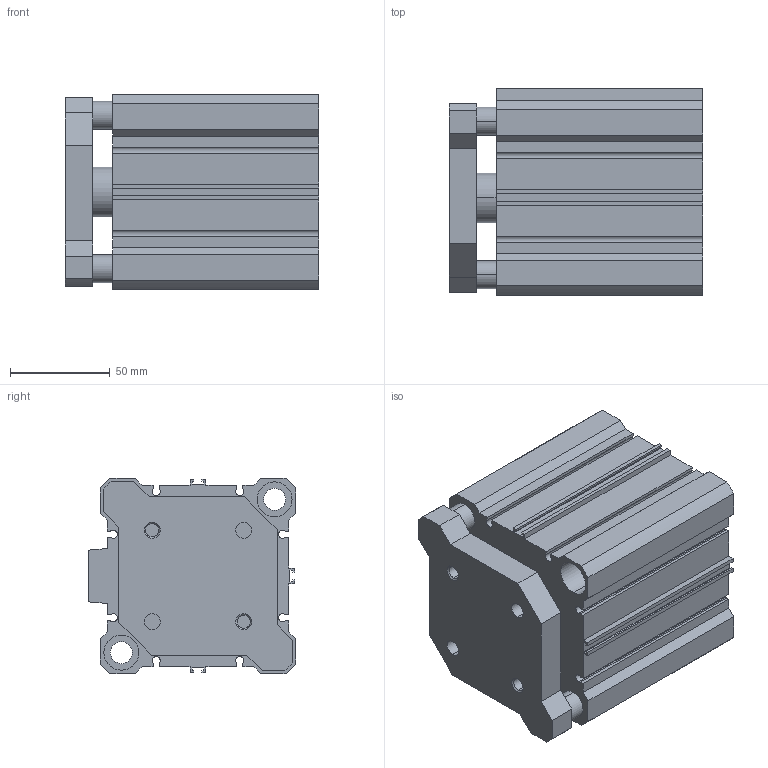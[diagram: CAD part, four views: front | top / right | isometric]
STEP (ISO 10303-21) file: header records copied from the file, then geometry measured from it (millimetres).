
FILE_DESCRIPTION (( 'STEP AP203' ), '1' );
FILE_NAME ('CCMG80-50.STEP', '2020-04-01T18:51:53', ( '' ), ( '' ), 'SwSTEP 2.0', 'SolidWorks 2019', '' );
FILE_SCHEMA (( 'CONFIG_CONTROL_DESIGN' ));
Length unit declared in the file: millimetre
Products named in the file (1): CCMG80-50
Bounding box: 127.5 x 104 x 98 mm (x, y, z)
Volume: 757988.9 mm3; surface area: 157648.7 mm2
Topology: 2 solids, 2 shells, 194 faces, 518 edges, 338 vertices
Faces by surface type: plane 114, cylinder 64, cone 16
Entity records: 6105 total; most frequent: CARTESIAN_POINT 1047, DIRECTION 1044, ORIENTED_EDGE 1028, EDGE_CURVE 514, LINE 374, VECTOR 374, VERTEX_POINT 338, AXIS2_PLACEMENT_3D 335
